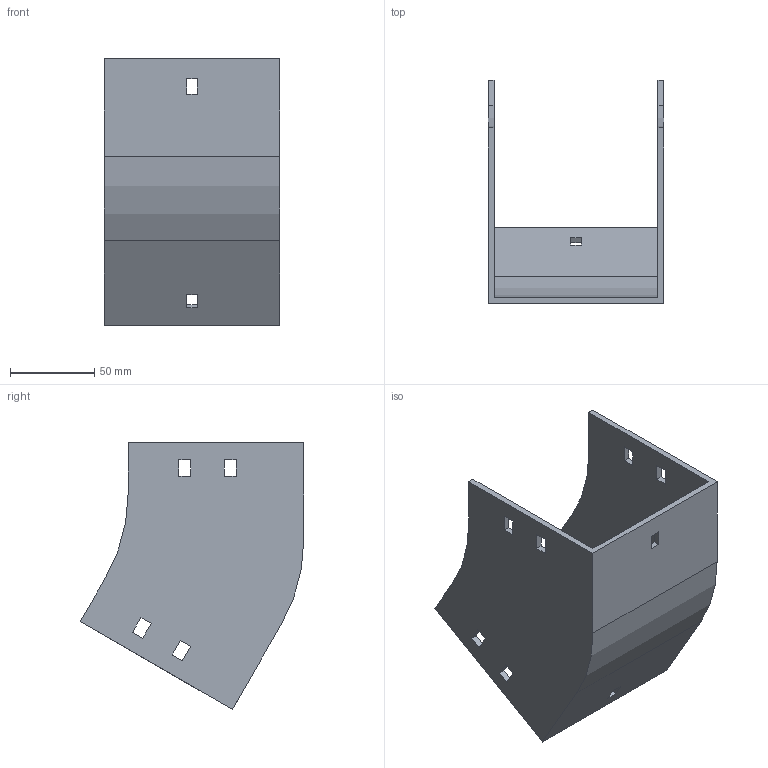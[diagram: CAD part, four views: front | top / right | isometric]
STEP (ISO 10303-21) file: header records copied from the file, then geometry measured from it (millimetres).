
FILE_DESCRIPTION (( 'STEP AP214' ), '1' );
FILE_NAME ('32F1D100.step', '2025-02-21T12:59:19', ( '' ), ( '' ), 'SwSTEP 2.0', 'SolidWorks 2023', '' );
FILE_SCHEMA (( 'AUTOMOTIVE_DESIGN' ));
Length unit declared in the file: millimetre
Products named in the file (1): 32F1D100
Bounding box: 104 x 132.4 x 157.98 mm (x, y, z)
Volume: 157367.5 mm3; surface area: 94021.2 mm2
Topology: 1 solids, 1 shells, 58 faces, 168 edges, 112 vertices
Faces by surface type: plane 54, cylinder 4
Entity records: 1943 total; most frequent: CARTESIAN_POINT 339, ORIENTED_EDGE 336, DIRECTION 294, EDGE_CURVE 168, LINE 160, VECTOR 160, VERTEX_POINT 112, EDGE_LOOP 78
